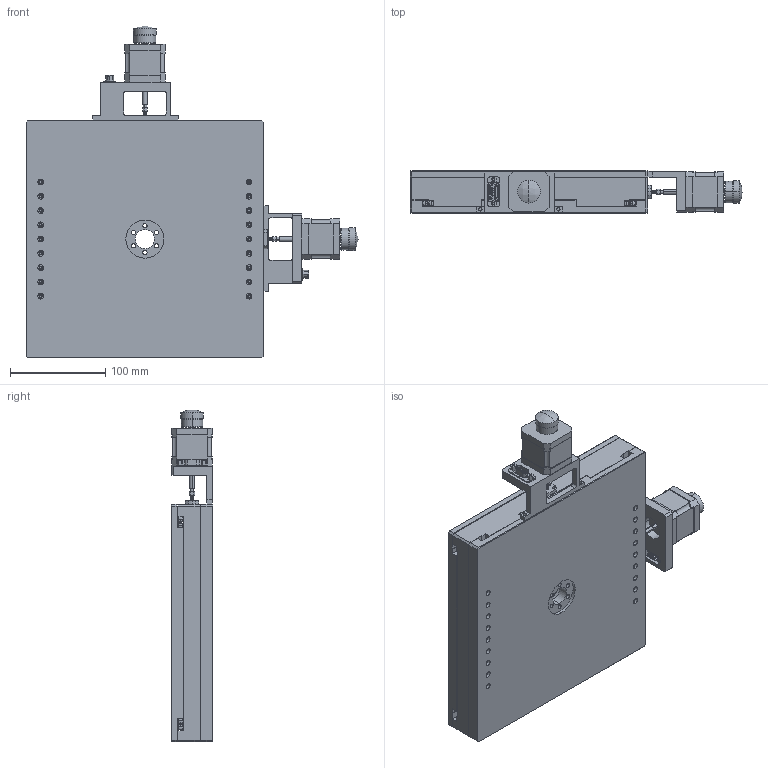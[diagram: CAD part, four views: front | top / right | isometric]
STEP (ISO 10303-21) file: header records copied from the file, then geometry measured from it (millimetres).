
FILE_DESCRIPTION (( 'STEP AP203' ), '1' );
FILE_NAME ('电动动两轴平移台方案20191204.STEP', '2019-12-09T08:26:09', ( '' ), ( '' ), 'SwSTEP 2.0', 'SolidWorks 2016', '' );
FILE_SCHEMA (( 'CONFIG_CONTROL_DESIGN' ));
Length unit declared in the file: millimetre
Products named in the file (13): SFK00401佪裝; 0-聆峚芛釱; 0-菁啣; VR2-135-23Z蝠脫幗翐絳寢萵; SFK00401蹟譫; 42BYG-40-1.8-1.5A邧堤粣祭輛萇儂; DB9Z蟀諉ん釱; 电动动两轴平移台方案20191204; VR2-135-23Z-1蝠脫幗翐絳寢; SFKR0401-DGC5-108-P1幗紩佪裝萵; 0-怢醱; 0-笢潔啣; SL-003忒謫24x18-5
Assembly tree (21 placements, depth 3):
  电动动两轴平移台方案20191204
    0-菁啣
    0-笢潔啣
    0-怢醱
    VR2-135-23Z蝠脫幗翐絳寢萵  x2
      VR2-135-23Z-1蝠脫幗翐絳寢
    0-聆峚芛釱  x2
    42BYG-40-1.8-1.5A邧堤粣祭輛萇儂  x2
    SFKR0401-DGC5-108-P1幗紩佪裝萵  x2
      SFK00401佪裝
      SFK00401蹟譫
    SL-003忒謫24x18-5  x2
    DB9Z蟀諉ん釱  x2
Bounding box: 349 x 44 x 349 mm (x, y, z)
Volume: 2748842.8 mm3; surface area: 532442.3 mm2
Topology: 27 solids, 27 shells, 2097 faces, 5276 edges, 3316 vertices
Faces by surface type: cylinder 962, plane 693, cone 404, torus 32, sphere 4, bspline 2
Entity records: 36478 total; most frequent: CARTESIAN_POINT 12840, DIRECTION 4792, ORIENTED_EDGE 4438, EDGE_CURVE 2219, AXIS2_PLACEMENT_3D 1816, VERTEX_POINT 1433, LINE 1160, VECTOR 1160
